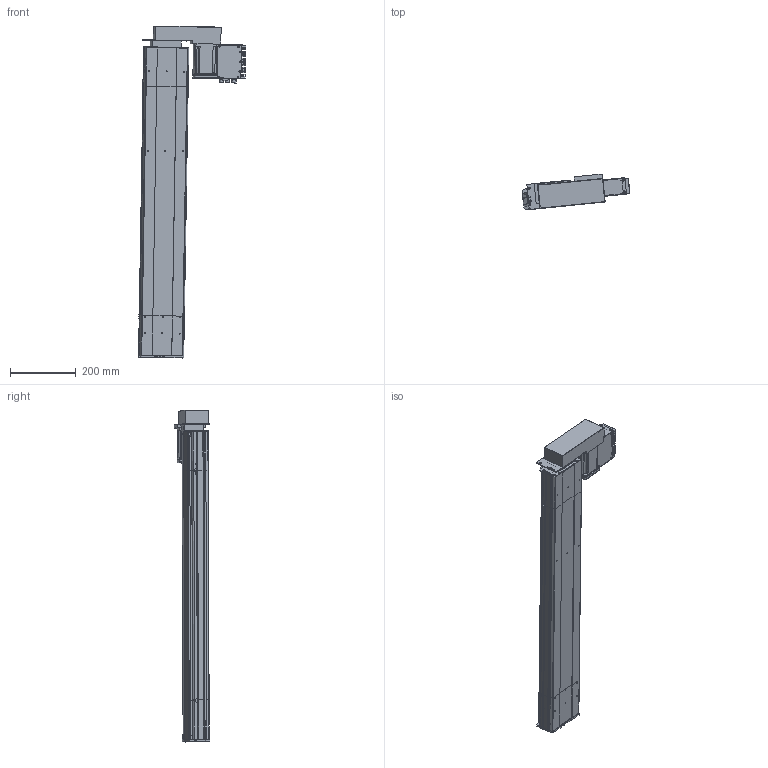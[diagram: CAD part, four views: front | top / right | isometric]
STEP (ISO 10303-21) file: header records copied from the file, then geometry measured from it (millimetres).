
FILE_DESCRIPTION (( 'STEP AP203' ), '1' );
FILE_NAME ('D14 TSH M4 BL L10 S700.STEP', '2012-10-11T07:52:48', ( '' ), ( '' ), 'SwSTEP 2.0', 'SolidWorks 2010', '' );
FILE_SCHEMA (( 'CONFIG_CONTROL_DESIGN' ));
Length unit declared in the file: millimetre
Products named in the file (22): Tôle latérale_2; Connecteur rond D12 4cts_2; Moteur 70BLDC90A_2; Colonnette_2; plaque de  bout tail D14_Default_2; couvercle D14 head_Default_2; Pièce702; Pièce700; corpl tail D14_Default_2; plaque de  bout head D14 MD_Default_2; Connecteur rond D10 3cts_2; Tôle Arrière_2; Couvercle_2; Radiateur_2; Vis TF 3 torkx_2; plaque de bout head D14 BL; D14 TSH M4 BL L10 S700; corp head D14_Default_2; Moteur_2; T犨e contre le moteur_2; Sub D 9cts_2; T犨e fond_2
Assembly tree (49 placements, depth 3):
  D14 TSH M4 BL L10 S700
    couvercle D14 head_Default_2  x2
    plaque de  bout tail D14_Default_2
    corpl tail D14_Default_2
    corp head D14_Default_2
    Pièce700
    plaque de  bout head D14 MD_Default_2
    Moteur_2
      Vis TF 3 torkx_2  x26
      Moteur 70BLDC90A_2
      Colonnette_2
      Radiateur_2
      Connecteur rond D10 3cts_2  x2
      Tôle Arrière_2
      T犨e contre le moteur_2
      Sub D 9cts_2
      Couvercle_2
      T犨e fond_2
      Tôle latérale_2  x2
      Connecteur rond D12 4cts_2
    plaque de bout head D14 BL
    Pièce702
Bounding box: 329.26 x 108.13 x 1013.67 mm (x, y, z)
Volume: 3983758.8 mm3; surface area: 1196064.2 mm2
Topology: 70 solids, 70 shells, 2406 faces, 6282 edges, 4141 vertices
Faces by surface type: plane 1299, cylinder 843, cone 134, bspline 130
Entity records: 64484 total; most frequent: CARTESIAN_POINT 20825, ORIENTED_EDGE 8522, DIRECTION 8148, EDGE_CURVE 4261, VECTOR 2848, LINE 2848, VERTEX_POINT 2815, AXIS2_PLACEMENT_3D 2650
